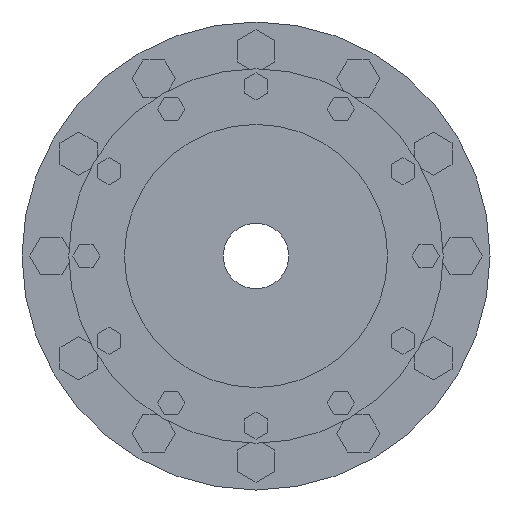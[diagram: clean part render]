
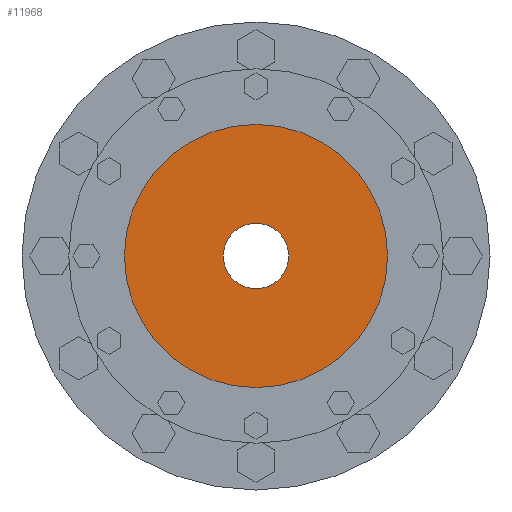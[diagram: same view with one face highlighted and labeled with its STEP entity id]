
A CAD part, left-side view. The second image highlights one B-rep face of the part: STEP entity #11968.
In plain terms, the highlighted planar face has unit normal (-1, 0, 0).
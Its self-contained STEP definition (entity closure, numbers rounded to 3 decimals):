
#11666=CARTESIAN_POINT('',(-93.,0.,0.));
#11667=DIRECTION('',(1.,0.,0.));
#11668=DIRECTION('',(0.,1.,0.));
#11669=AXIS2_PLACEMENT_3D('',#11666,#11667,#11668);
#11745=CARTESIAN_POINT('',(-93.,0.,0.));
#11746=DIRECTION('',(-1.,0.,0.));
#11747=DIRECTION('',(0.,1.,0.));
#11748=AXIS2_PLACEMENT_3D('',#11745,#11746,#11747);
#11750=CARTESIAN_POINT('',(-93.,0.,0.));
#11751=DIRECTION('',(1.,0.,0.));
#11752=DIRECTION('',(0.,1.,0.));
#11753=AXIS2_PLACEMENT_3D('',#11750,#11751,#11752);
#11764=CARTESIAN_POINT('',(-93.,0.,0.));
#11765=DIRECTION('',(-1.,0.,0.));
#11766=DIRECTION('',(0.,1.,0.));
#11767=AXIS2_PLACEMENT_3D('',#11764,#11765,#11766);
#11773=CARTESIAN_POINT('',(-93.,14.,0.));
#11774=CARTESIAN_POINT('',(-93.,-14.,0.));
#11775=VERTEX_POINT('',#11773);
#11776=VERTEX_POINT('',#11774);
#11777=CARTESIAN_POINT('',(-93.,56.25,0.));
#11778=CARTESIAN_POINT('',(-93.,-56.25,0.));
#11779=VERTEX_POINT('',#11777);
#11780=VERTEX_POINT('',#11778);
#11954=CARTESIAN_POINT('',(-93.,0.,0.));
#11955=DIRECTION('',(1.,0.,0.));
#11956=DIRECTION('',(0.,-1.,0.));
#11957=AXIS2_PLACEMENT_3D('',#11954,#11955,#11956);
#11958=PLANE('',#11957);
#11959=ORIENTED_EDGE('',*,*,#11936,.F.);
#11960=ORIENTED_EDGE('',*,*,#11949,.T.);
#11961=EDGE_LOOP('',(#11959,#11960));
#11962=FACE_OUTER_BOUND('',#11961,.F.);
#11963=ORIENTED_EDGE('',*,*,#11814,.F.);
#11965=ORIENTED_EDGE('',*,*,#11964,.T.);
#11966=EDGE_LOOP('',(#11963,#11965));
#11967=FACE_BOUND('',#11966,.F.);
#11968=ADVANCED_FACE('',(#11962,#11967),#11958,.F.);
#11670=CIRCLE('',#11669,14.);
#11749=CIRCLE('',#11748,56.25);
#11754=CIRCLE('',#11753,56.25);
#11768=CIRCLE('',#11767,14.);
#11814=EDGE_CURVE('',#11775,#11776,#11670,.T.);
#11936=EDGE_CURVE('',#11779,#11780,#11749,.T.);
#11949=EDGE_CURVE('',#11779,#11780,#11754,.T.);
#11964=EDGE_CURVE('',#11775,#11776,#11768,.T.);
